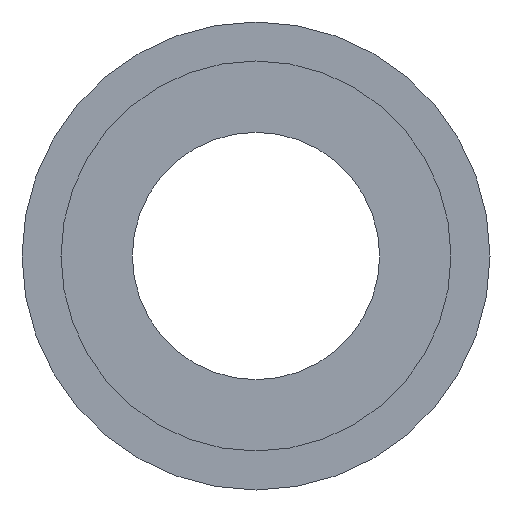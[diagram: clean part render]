
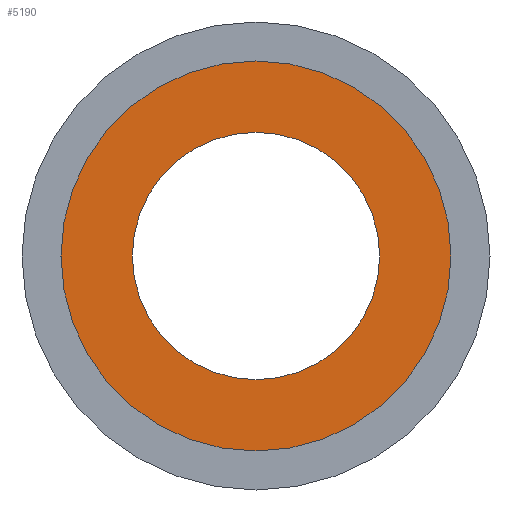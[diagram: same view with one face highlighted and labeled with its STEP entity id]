
A CAD part, left-side view. The second image highlights one B-rep face of the part: STEP entity #5190.
In plain terms, the highlighted planar face has unit normal (-1, 0, 0).
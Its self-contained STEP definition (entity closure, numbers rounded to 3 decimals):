
#100=CARTESIAN_POINT('',(108.49,52.567,-19.5));
#110=VERTEX_POINT('',#100);
#160=CARTESIAN_POINT('',(108.49,52.567,
0.));
#170=DIRECTION('',(1.,0.,0.));
#180=DIRECTION('',(0.,0.,1.));
#190=AXIS2_PLACEMENT_3D('',#160,#170,#180);
#200=CIRCLE('',#190,19.5);
#210=CARTESIAN_POINT('',(108.49,52.567,19.5));
#220=VERTEX_POINT('',#210);
#230=EDGE_CURVE('',#110,#220,#200,.T.);
#1930=CARTESIAN_POINT('',(108.49,21.817,
0.));
#1940=VERTEX_POINT('',#1930);
#2100=CARTESIAN_POINT('',(108.49,83.317,
0.));
#2110=VERTEX_POINT('',#2100);
#2140=CARTESIAN_POINT('',(108.49,52.567,
0.));
#2150=DIRECTION('',(1.,0.,0.));
#2160=DIRECTION('',(0.,1.,0.));
#2170=AXIS2_PLACEMENT_3D('',#2140,#2150,#2160);
#2180=CIRCLE('',#2170,30.75);
#2190=EDGE_CURVE('',#1940,#2110,#2180,.T.);
#5040=CARTESIAN_POINT('',(108.49,16.717,
0.));
#5050=DIRECTION('',(1.,0.,-0.));
#5060=DIRECTION('',(0.,1.,0.));
#5070=AXIS2_PLACEMENT_3D('',#5040,#5050,#5060);
#5080=PLANE('',#5070);
#5090=EDGE_CURVE('',#220,#110,#200,.T.);
#5100=ORIENTED_EDGE('',*,*,#5090,.T.);
#5110=ORIENTED_EDGE('',*,*,#230,.T.);
#5120=EDGE_LOOP('',(#5110,#5100));
#5130=FACE_BOUND('',#5120,.T.);
#5140=EDGE_CURVE('',#2110,#1940,#2180,.T.);
#5150=ORIENTED_EDGE('',*,*,#5140,.F.);
#5160=ORIENTED_EDGE('',*,*,#2190,.F.);
#5170=EDGE_LOOP('',(#5160,#5150));
#5180=FACE_OUTER_BOUND('',#5170,.T.);
#5190=ADVANCED_FACE('',(#5130,#5180),#5080,.F.);
